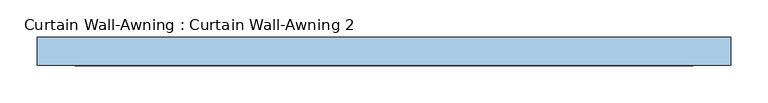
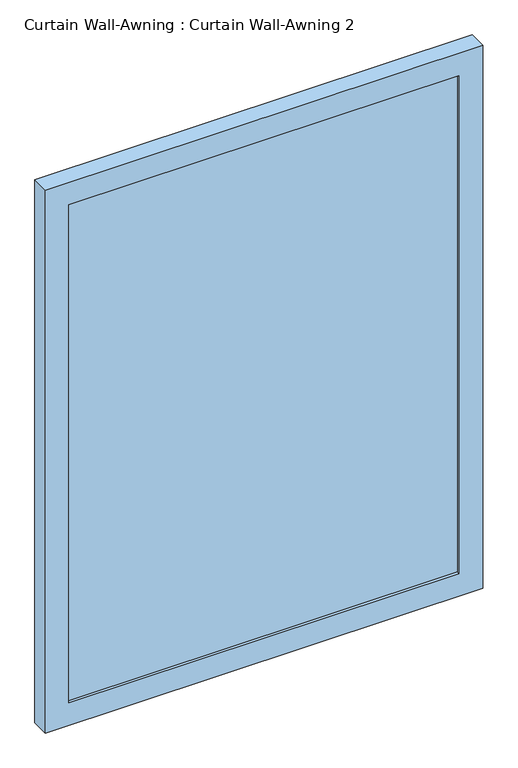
"""IFC4 building model written with IfcOpenShell, lengths in millimetres: window geometry, Curtain Wall-Awning : Curtain Wall-Awning 2."""

from ifc_helpers import new_model, si_unit, frame, origin, place, context, project, spatial, polyline, outline, extrude, source, transform, mapped, element, save


def curtain_wall_awning_curtain_wall_awning_2_74a93b62(model_context):
    return source(origin(), model_context, "Body", "SweptSolid", [
        extrude(outline(polyline([(416.3866594, 19.05), (416.3866594, 6.35), (-416.3866594, 6.35), (-416.3866594, 19.05), (416.3866594, 19.05)])), frame((0.0, 0.0, 50.8), z_axis=(0.0, 0.0, 1.0), x_axis=(1.0, 0.0, 0.0)), (0.0, 0.0, 1.0), 1124.7800169),
        extrude(outline(polyline([(1226.3800169, -467.1866594), (0.0, -467.1866594), (0.0, 467.1866594), (1226.3800169, 467.1866594), (1226.3800169, -467.1866594)]), holes=[polyline([(1175.5800169, -416.3866594), (1175.5800169, 416.3866594), (50.8, 416.3866594), (50.8, -416.3866594), (1175.5800169, -416.3866594)])]), frame((0.0, 0.0, 0.0), z_axis=(0.0, 1.0, 0.0), x_axis=(0.0, 0.0, 1.0)), (0.0, 0.0, 1.0), 38.1),
    ])


if __name__ == "__main__":
    model = new_model("IFC4")
    model_context = context("Model", 3, world=origin())
    ifc_project = project(units=[si_unit("LENGTHUNIT", "METRE", prefix="MILLI")], contexts=[model_context])
    site = spatial("IfcSite", under=ifc_project)
    building = spatial("IfcBuilding", under=site)
    placement = place(None, origin())
    curtain_wall_awning_curtain_wall_awning_2_shape = curtain_wall_awning_curtain_wall_awning_2_74a93b62(model_context)
    element("IfcWindow", 1, ObjectType="Curtain Wall-Awning : Curtain Wall-Awning 2", at=placement, inside=building, context=model_context, shape_type="MappedRepresentation", body=[
        mapped(curtain_wall_awning_curtain_wall_awning_2_shape, transform((0.0, 0.0, 0.0), x_axis=(1.0, 0.0, 0.0), y_axis=(0.0, 1.0, 0.0), z_axis=(0.0, 0.0, 1.0))),
    ])
    save(model, "model.ifc")
